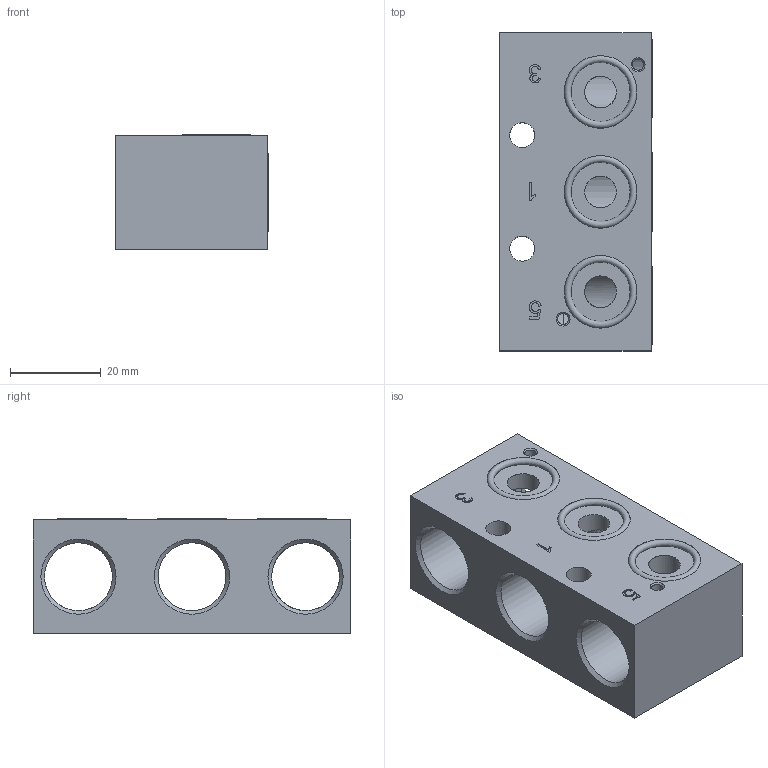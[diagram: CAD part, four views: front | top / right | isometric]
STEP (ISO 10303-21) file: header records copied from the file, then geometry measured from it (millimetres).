
FILE_DESCRIPTION( ( 'Unknown' ), '1' );
FILE_NAME( 'Q:/Solid Edge ST4/STEP/R 5 703 GR.stp', 'Unknown', ( 'Unknown' ), ( 'Unknown' ), 'PSStep 17.0.49', 'Unknown', ' ' );
FILE_SCHEMA( ( 'AUTOMOTIVE_DESIGN { 1 0 10303 214 1 1 1 1 }' ) );
Length unit declared in the file: millimetre
Products named in the file (10): Assem1
Assembly tree (9 placements, depth 2):
  Assem1
    (unnamed)
    (unnamed)
    (unnamed)
    (unnamed)
    (unnamed)
    (unnamed)
    (unnamed)
    (unnamed)
    (unnamed)
Bounding box: 33.67 x 70 x 25.3 mm (x, y, z)
Surface area: 16940 mm2 (no closed solid volume)
Topology: 0 solids, 109 shells, 109 faces, 465 edges, 409 vertices
Faces by surface type: plane 46, cylinder 28, cone 21, extrusion 8, torus 6
Full cylindrical faces by diameter (mm): 2.459 x2, 3.242 x2, 4.134 x2, 5 x4, 5.5 x2, 7 x3, 14.95 x6, 16 x3, 18 x3
Entity records: 6019 total; most frequent: CARTESIAN_POINT 2490, DIRECTION 630, VERTEX_POINT 385, ORIENTED_EDGE 374, EDGE_CURVE 374, AXIS2_PLACEMENT_3D 233, FACE_BOUND 194, EDGE_LOOP 183
